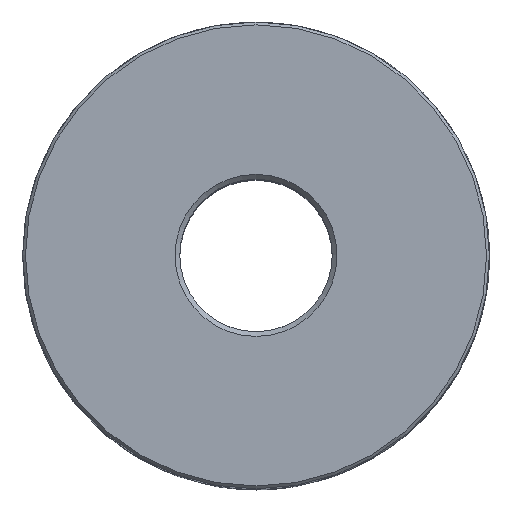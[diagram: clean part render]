
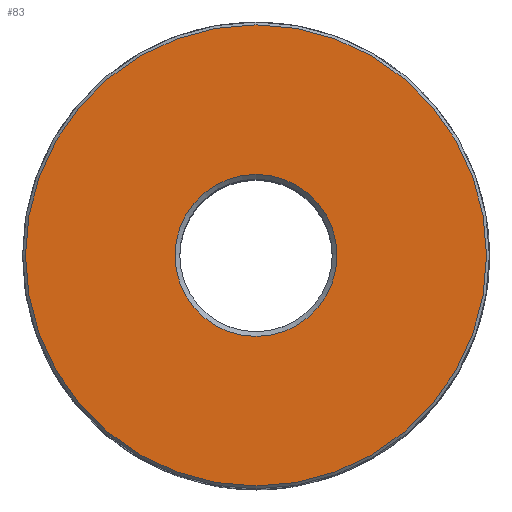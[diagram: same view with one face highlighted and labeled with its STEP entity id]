
A CAD part, top view. The second image highlights one B-rep face of the part: STEP entity #83.
In plain terms, the highlighted planar face has unit normal (0, 0, 1).
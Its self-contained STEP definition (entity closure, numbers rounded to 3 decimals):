
#83 = ADVANCED_FACE( '', ( #161, #162 ), #163, .T. );
#161 = FACE_OUTER_BOUND( '', #313, .T. );
#162 = FACE_BOUND( '', #314, .T. );
#163 = PLANE( '', #315 );
#313 = EDGE_LOOP( '', ( #649 ) );
#314 = EDGE_LOOP( '', ( #650 ) );
#315 = AXIS2_PLACEMENT_3D( '', #651, #652, #653 );
#649 = ORIENTED_EDGE( '', *, *, #921, .T. );
#650 = ORIENTED_EDGE( '', *, *, #922, .T. );
#651 = CARTESIAN_POINT( '', ( -24.5, 0., 35. ) );
#652 = DIRECTION( '', ( 0., 0., 1. ) );
#653 = DIRECTION( '', ( 1., 0., 0. ) );
#921 = EDGE_CURVE( '', #1056, #1056, #1057, .T. );
#922 = EDGE_CURVE( '', #1058, #1058, #1059, .F. );
#1056 = VERTEX_POINT( '', #1835 );
#1057 = CIRCLE( '', #1836, 24.2 );
#1058 = VERTEX_POINT( '', #1837 );
#1059 = CIRCLE( '', #1838, 8.5 );
#1835 = CARTESIAN_POINT( '', ( 24.2, 0., 35. ) );
#1836 = AXIS2_PLACEMENT_3D( '', #2127, #2128, #2129 );
#1837 = CARTESIAN_POINT( '', ( 8.5, 0., 35. ) );
#1838 = AXIS2_PLACEMENT_3D( '', #2130, #2131, #2132 );
#2127 = CARTESIAN_POINT( '', ( 0., 0., 35. ) );
#2128 = DIRECTION( '', ( 0., 0., 1. ) );
#2129 = DIRECTION( '', ( 1., 0., 0. ) );
#2130 = CARTESIAN_POINT( '', ( 0., 0., 35. ) );
#2131 = DIRECTION( '', ( 0., 0., 1. ) );
#2132 = DIRECTION( '', ( 1., 0., 0. ) );
